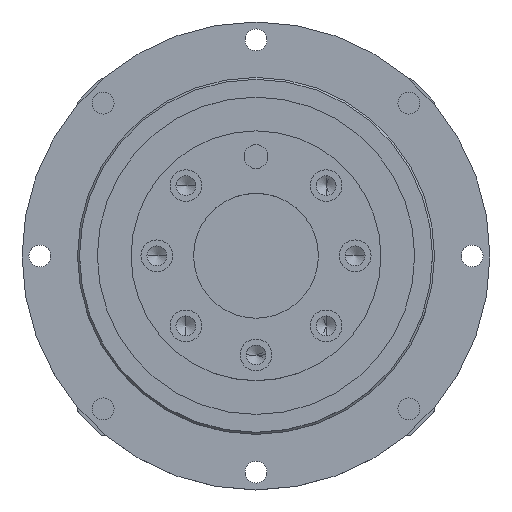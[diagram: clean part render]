
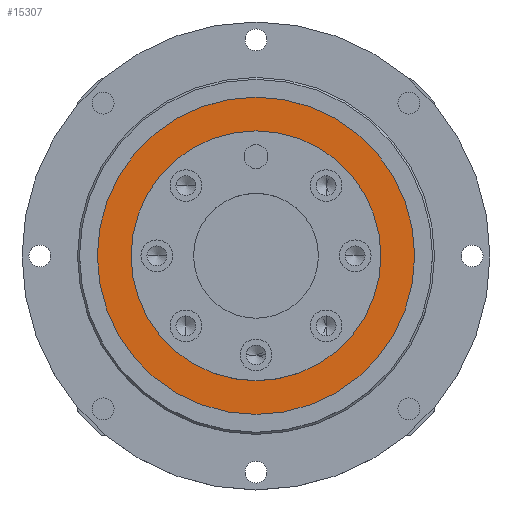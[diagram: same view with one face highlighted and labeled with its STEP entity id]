
A CAD part, top view. The second image highlights one B-rep face of the part: STEP entity #15307.
In plain terms, the highlighted planar face has unit normal (0, 0, 1).
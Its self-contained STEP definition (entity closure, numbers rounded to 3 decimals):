
#1049 = CARTESIAN_POINT ( 'NONE',  ( 0., 40., -1. ) ) ;
#1052 = DIRECTION ( 'NONE',  ( 1., 0., 0. ) ) ;
#1836 = VERTEX_POINT ( 'NONE', #17175 ) ;
#8086 = CIRCLE ( 'NONE', #26557, 31. ) ;
#8234 = AXIS2_PLACEMENT_3D ( 'NONE', #44303, #23337, #1052 ) ;
#9572 = VERTEX_POINT ( 'NONE', #36858 ) ;
#11381 = CIRCLE ( 'NONE', #30763, 31. ) ;
#11395 = DIRECTION ( 'NONE',  ( -1., 0., 0. ) ) ;
#11404 = DIRECTION ( 'NONE',  ( 0., 0., -1. ) ) ;
#11464 = PLANE ( 'NONE',  #17962 ) ;
#12180 = CARTESIAN_POINT ( 'NONE',  ( 0., 0., -1. ) ) ;
#14123 = CARTESIAN_POINT ( 'NONE',  ( 0., 0., -1. ) ) ;
#15307 = ADVANCED_FACE ( 'NONE', ( #45736, #44653 ), #11464, .F. ) ;
#15984 = DIRECTION ( 'NONE',  ( 1., 0., 0. ) ) ;
#17175 = CARTESIAN_POINT ( 'NONE',  ( 40., 0., -1. ) ) ;
#17375 = ORIENTED_EDGE ( 'NONE', *, *, #45077, .T. ) ;
#17910 = DIRECTION ( 'NONE',  ( -1., 0., 0. ) ) ;
#17962 = AXIS2_PLACEMENT_3D ( 'NONE', #1049, #11404, #11395 ) ;
#19570 = VERTEX_POINT ( 'NONE', #37627 ) ;
#21627 = DIRECTION ( 'NONE',  ( 0., 0., 1. ) ) ;
#23337 = DIRECTION ( 'NONE',  ( 0., 0., 1. ) ) ;
#23936 = CARTESIAN_POINT ( 'NONE',  ( -31., 0., -1. ) ) ;
#26557 = AXIS2_PLACEMENT_3D ( 'NONE', #42754, #21627, #46085 ) ;
#26645 = ORIENTED_EDGE ( 'NONE', *, *, #33761, .T. ) ;
#26848 = VERTEX_POINT ( 'NONE', #23936 ) ;
#30763 = AXIS2_PLACEMENT_3D ( 'NONE', #14123, #39313, #17910 ) ;
#31191 = CIRCLE ( 'NONE', #36104, 40. ) ;
#32474 = ORIENTED_EDGE ( 'NONE', *, *, #44265, .F. ) ;
#32632 = EDGE_LOOP ( 'NONE', ( #32474, #32976 ) ) ;
#32976 = ORIENTED_EDGE ( 'NONE', *, *, #42566, .F. ) ;
#33761 = EDGE_CURVE ( 'NONE', #9572, #1836, #31191, .T. ) ;
#36104 = AXIS2_PLACEMENT_3D ( 'NONE', #12180, #37552, #15984 ) ;
#36858 = CARTESIAN_POINT ( 'NONE',  ( -40., 0., -1. ) ) ;
#37552 = DIRECTION ( 'NONE',  ( 0., 0., 1. ) ) ;
#37627 = CARTESIAN_POINT ( 'NONE',  ( 31., 0., -1. ) ) ;
#38908 = EDGE_LOOP ( 'NONE', ( #17375, #26645 ) ) ;
#39313 = DIRECTION ( 'NONE',  ( 0., 0., 1. ) ) ;
#40892 = CIRCLE ( 'NONE', #8234, 40. ) ;
#42566 = EDGE_CURVE ( 'NONE', #19570, #26848, #8086, .T. ) ;
#42754 = CARTESIAN_POINT ( 'NONE',  ( 0., 0., -1. ) ) ;
#44265 = EDGE_CURVE ( 'NONE', #26848, #19570, #11381, .T. ) ;
#44303 = CARTESIAN_POINT ( 'NONE',  ( 0., 0., -1. ) ) ;
#44653 = FACE_BOUND ( 'NONE', #32632, .T. ) ;
#45077 = EDGE_CURVE ( 'NONE', #1836, #9572, #40892, .T. ) ;
#45736 = FACE_OUTER_BOUND ( 'NONE', #38908, .T. ) ;
#46085 = DIRECTION ( 'NONE',  ( -1., 0., 0. ) ) ;
